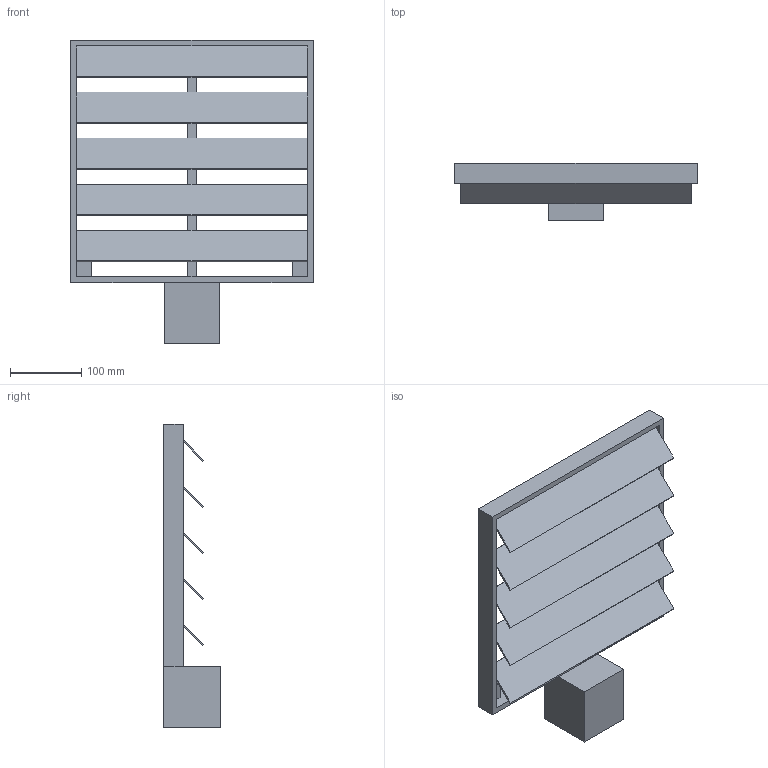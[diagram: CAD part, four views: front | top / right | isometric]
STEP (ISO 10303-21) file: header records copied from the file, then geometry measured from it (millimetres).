
FILE_DESCRIPTION(/* description */ (''),/* implementation_level */ '2;1');
FILE_NAME(/* name */ 'Z:\Output\EVK_315-00776-001.stp',/* time_stamp */ '2020-05-11T12:19:43+02:00',/* author */ ('pareshmistry'),/* organization */ (''),/* preprocessor_version */ 'ST-DEVELOPER v17.2',/* originating_system */ 'Autodesk Inventor 2019',/* authorisation */ '');
FILE_SCHEMA (('AUTOMOTIVE_DESIGN { 1 0 10303 214 3 1 1 }'));
Length unit declared in the file: millimetre
Products named in the file (1): EVK-1
Bounding box: 340 x 80 x 426 mm (x, y, z)
Volume: 1119590.6 mm3; surface area: 354034.1 mm2
Topology: 1 solids, 1 shells, 82 faces, 265 edges, 164 vertices
Faces by surface type: plane 74, cylinder 8
Full cylindrical faces by diameter (mm): 5.3 x4
Entity records: 2926 total; most frequent: ORIENTED_EDGE 530, CARTESIAN_POINT 512, DIRECTION 447, EDGE_CURVE 265, LINE 249, VECTOR 249, VERTEX_POINT 164, AXIS2_PLACEMENT_3D 99
